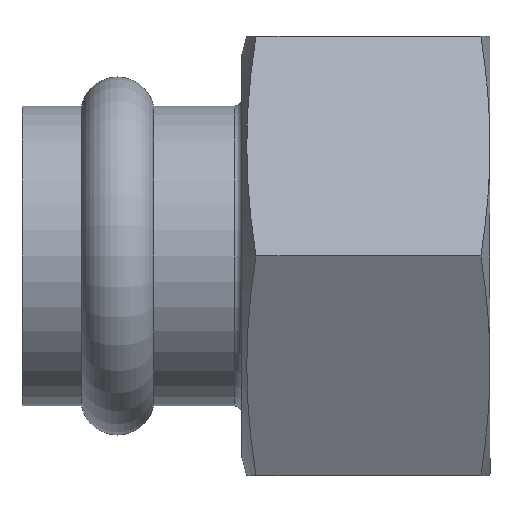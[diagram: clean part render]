
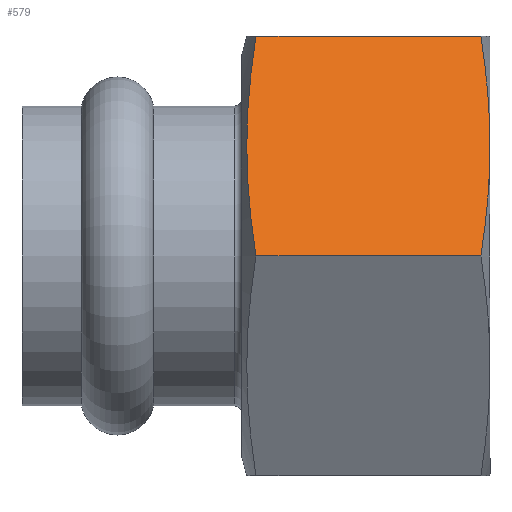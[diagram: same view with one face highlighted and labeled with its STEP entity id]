
A CAD part, left-side view. The second image highlights one B-rep face of the part: STEP entity #579.
In plain terms, the highlighted planar face has unit normal (-0.866, 0, 0.5).
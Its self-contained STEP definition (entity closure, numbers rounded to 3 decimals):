
#21=(
BOUNDED_CURVE()
B_SPLINE_CURVE(2,(#1029,#1030,#1031),.UNSPECIFIED.,.F.,.F.)
B_SPLINE_CURVE_WITH_KNOTS((3,3),(0.155,2.87),
 .UNSPECIFIED.)
CURVE()
GEOMETRIC_REPRESENTATION_ITEM()
RATIONAL_B_SPLINE_CURVE((1.019,1.177,1.019))
REPRESENTATION_ITEM('')
);
#22=(
BOUNDED_CURVE()
B_SPLINE_CURVE(2,(#1032,#1033,#1034),.UNSPECIFIED.,.F.,.F.)
B_SPLINE_CURVE_WITH_KNOTS((3,3),(1.513,2.865),
 .UNSPECIFIED.)
CURVE()
GEOMETRIC_REPRESENTATION_ITEM()
RATIONAL_B_SPLINE_CURVE((1.,1.043,1.009))
REPRESENTATION_ITEM('')
);
#23=(
BOUNDED_CURVE()
B_SPLINE_CURVE(2,(#1036,#1037,#1038),.UNSPECIFIED.,.F.,.F.)
B_SPLINE_CURVE_WITH_KNOTS((3,3),(0.162,1.513),
 .UNSPECIFIED.)
CURVE()
GEOMETRIC_REPRESENTATION_ITEM()
RATIONAL_B_SPLINE_CURVE((1.009,1.043,1.))
REPRESENTATION_ITEM('')
);
#45=PLANE('',#677);
#68=LINE('',#1026,#88);
#69=LINE('',#1039,#89);
#88=VECTOR('',#836,10.);
#89=VECTOR('',#839,10.);
#129=FACE_OUTER_BOUND('',#168,.T.);
#168=EDGE_LOOP('',(#478,#479,#480,#481,#482));
#271=VERTEX_POINT('',#993);
#277=VERTEX_POINT('',#1015);
#278=VERTEX_POINT('',#1022);
#279=VERTEX_POINT('',#1028);
#280=VERTEX_POINT('',#1035);
#352=EDGE_CURVE('',#278,#277,#68,.T.);
#353=EDGE_CURVE('',#277,#279,#21,.T.);
#354=EDGE_CURVE('',#271,#278,#22,.T.);
#355=EDGE_CURVE('',#280,#271,#23,.T.);
#356=EDGE_CURVE('',#280,#279,#69,.T.);
#478=ORIENTED_EDGE('',*,*,#353,.F.);
#479=ORIENTED_EDGE('',*,*,#352,.F.);
#480=ORIENTED_EDGE('',*,*,#354,.F.);
#481=ORIENTED_EDGE('',*,*,#355,.F.);
#482=ORIENTED_EDGE('',*,*,#356,.T.);
#579=ADVANCED_FACE('',(#129),#45,.T.);
#677=AXIS2_PLACEMENT_3D('',#1027,#837,#838);
#836=DIRECTION('',(0.,1.,0.));
#837=DIRECTION('center_axis',(-0.866,0.,0.5));
#838=DIRECTION('ref_axis',(0.5,0.,0.866));
#839=DIRECTION('',(0.,1.,0.));
#993=CARTESIAN_POINT('',(-19.919,-49.,11.5));
#1015=CARTESIAN_POINT('',(-26.558,-24.489,0.));
#1022=CARTESIAN_POINT('',(-26.558,-48.047,0.));
#1026=CARTESIAN_POINT('',(-26.558,-49.,0.));
#1027=CARTESIAN_POINT('Origin',(-13.279,-49.,23.));
#1028=CARTESIAN_POINT('',(-13.279,-24.489,23.));
#1029=CARTESIAN_POINT('Ctrl Pts',(-26.558,-24.489,0.));
#1030=CARTESIAN_POINT('Ctrl Pts',(-19.919,-22.71,11.5));
#1031=CARTESIAN_POINT('Ctrl Pts',(-13.279,-24.489,23.));
#1032=CARTESIAN_POINT('Ctrl Pts',(-19.919,-49.,11.5));
#1033=CARTESIAN_POINT('Ctrl Pts',(-23.,-49.,6.163));
#1034=CARTESIAN_POINT('Ctrl Pts',(-26.558,-48.047,0.));
#1035=CARTESIAN_POINT('',(-13.279,-48.047,23.));
#1036=CARTESIAN_POINT('Ctrl Pts',(-13.279,-48.047,23.));
#1037=CARTESIAN_POINT('Ctrl Pts',(-16.837,-49.,16.837));
#1038=CARTESIAN_POINT('Ctrl Pts',(-19.919,-49.,11.5));
#1039=CARTESIAN_POINT('',(-13.279,-49.,23.));
